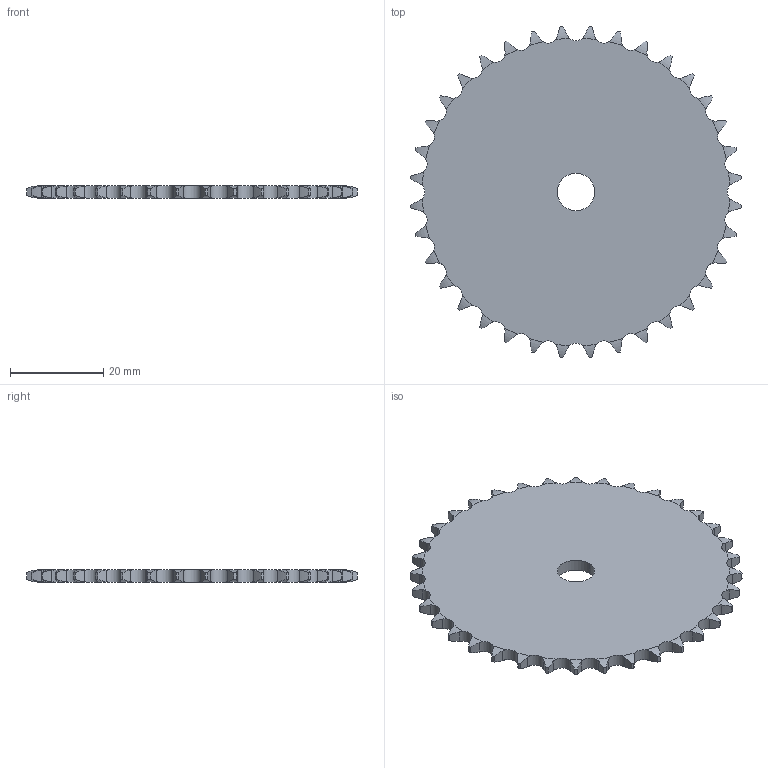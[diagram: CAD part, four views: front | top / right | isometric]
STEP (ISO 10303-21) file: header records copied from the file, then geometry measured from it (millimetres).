
FILE_DESCRIPTION((''),'2;1');
FILE_NAME('500-061-0036_PRT','2021-02-12T',('Brieden'),('Brieden'),'PRO/ENGINEER BY PARAMETRIC TECHNOLOGY CORPORATION, 2010160','PRO/ENGINEER BY PARAMETRIC TECHNOLOGY CORPORATION, 2010160','');
FILE_SCHEMA(('AUTOMOTIVE_DESIGN { 1 0 10303 214 1 1 1 1 }'));
Length unit declared in the file: millimetre
Products named in the file (1): 500-061-0036_PRT
Bounding box: 70.88 x 70.88 x 2.6 mm (x, y, z)
Volume: 9015.2 mm3; surface area: 7811.2 mm2
Topology: 1 solids, 1 shells, 220 faces, 654 edges, 436 vertices
Faces by surface type: cylinder 146, torus 72, plane 2
Entity records: 10228 total; most frequent: CARTESIAN_POINT 2643, ORIENTED_EDGE 1308, DIRECTION 1026, PRESENTATION_STYLE_ASSIGNMENT 655, STYLED_ITEM 655, CURVE_STYLE 654, EDGE_CURVE 654, AXIS2_PLACEMENT_3D 440
